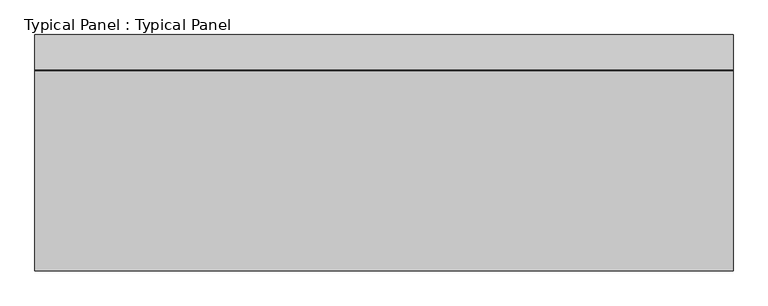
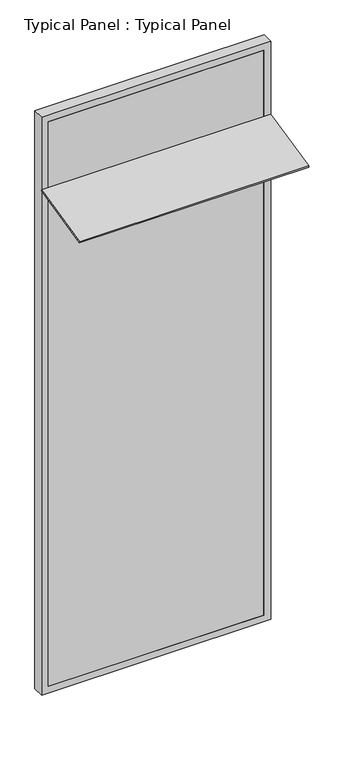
"""IFC4 building model written with IfcOpenShell, lengths in millimetres: plate geometry, Typical Panel : Typical Panel."""

from ifc_helpers import new_model, si_unit, frame, origin, place, context, project, spatial, polyline, outline, extrude, source, transform, mapped, element, save


def typical_panel_typical_panel_8a0cca83(model_context):
    return source(origin(), model_context, "Body", "SweptSolid", [
        extrude(outline(polyline([(0.0, -440.0), (0.0, 0.0), (1500.0, 0.0), (1500.0, -440.0), (0.0, -440.0)])), frame((750.0, -431.473318, 3391.2778354), z_axis=(0.0, -0.2249510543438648, 0.9743700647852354), x_axis=(-1.0, 0.0, 0.0)), (0.0, 0.0, 1.0), 10.0),
        extrude(outline(polyline([(0.0, -750.0), (0.0, 750.0), (4000.0, 750.0), (4000.0, -750.0), (0.0, -750.0)]), holes=[polyline([(45.0, 705.0), (45.0, -705.0), (3955.0, -705.0), (3955.0, 705.0), (45.0, 705.0)])]), frame((0.0, -1.5797986, 0.0), z_axis=(0.0, 1.0, 0.0), x_axis=(0.0, 0.0, 1.0)), (0.0, 0.0, 1.0), 75.0),
        extrude(outline(polyline([(705.0, -1.5797986), (-705.0, -1.5797986), (-705.0, 13.4202014), (705.0, 13.4202014), (705.0, -1.5797986)])), frame((0.0, 0.0, 45.0), z_axis=(0.0, 0.0, 1.0), x_axis=(1.0, 0.0, 0.0)), (0.0, 0.0, 1.0), 3910.0),
    ])


if __name__ == "__main__":
    model = new_model("IFC4")
    model_context = context("Model", 3, world=origin())
    ifc_project = project(units=[si_unit("LENGTHUNIT", "METRE", prefix="MILLI")], contexts=[model_context])
    site = spatial("IfcSite", under=ifc_project)
    building = spatial("IfcBuilding", under=site)
    placement = place(None, origin())
    typical_panel_typical_panel_shape = typical_panel_typical_panel_8a0cca83(model_context)
    element("IfcPlate", 1, ObjectType="Typical Panel : Typical Panel", at=placement, inside=building, context=model_context, shape_type="MappedRepresentation", body=[
        mapped(typical_panel_typical_panel_shape, transform((0.0, 0.0, 0.0), x_axis=(1.0, 0.0, 0.0), y_axis=(0.0, 1.0, 0.0), z_axis=(0.0, 0.0, 1.0))),
    ])
    save(model, "model.ifc")
